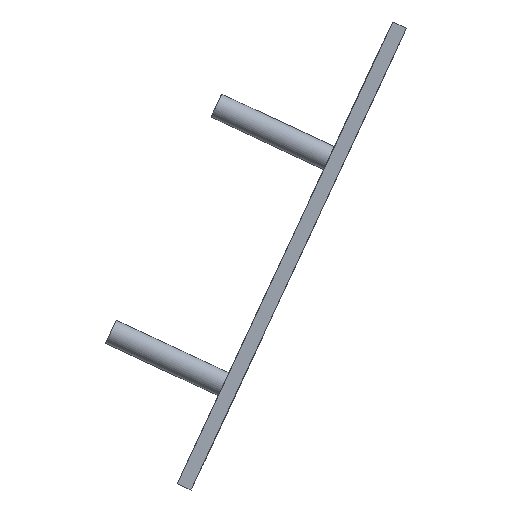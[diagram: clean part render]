
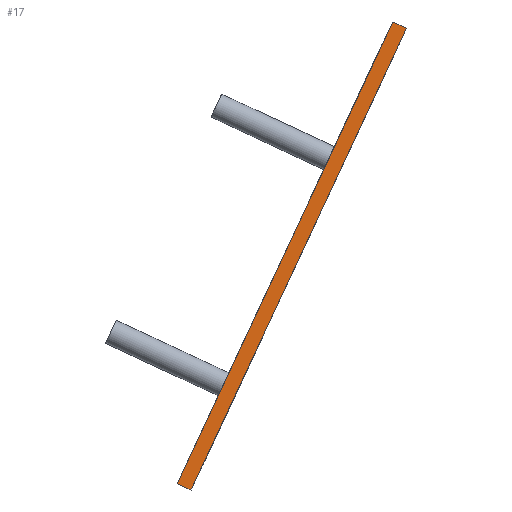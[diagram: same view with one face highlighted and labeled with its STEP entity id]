
A CAD part, left-side view. The second image highlights one B-rep face of the part: STEP entity #17.
In plain terms, the highlighted planar face has unit normal (-1, 0, 0).
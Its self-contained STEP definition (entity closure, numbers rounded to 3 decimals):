
#17 = ADVANCED_FACE('',(#18),#32,.F.);
#18 = FACE_BOUND('',#19,.F.);
#19 = EDGE_LOOP('',(#20,#55,#83,#111));
#20 = ORIENTED_EDGE('',*,*,#21,.F.);
#21 = EDGE_CURVE('',#22,#24,#26,.T.);
#22 = VERTEX_POINT('',#23);
#23 = CARTESIAN_POINT('',(0.,-41.69,8.));
#24 = VERTEX_POINT('',#25);
#25 = CARTESIAN_POINT('',(0.,-44.409,6.732));
#26 = SURFACE_CURVE('',#27,(#31,#43),.PCURVE_S1.);
#27 = LINE('',#28,#29);
#28 = CARTESIAN_POINT('',(0.,-41.69,8.));
#29 = VECTOR('',#30,1.);
#30 = DIRECTION('',(0.,-0.906,-0.423));
#31 = PCURVE('',#32,#37);
#32 = PLANE('',#33);
#33 = AXIS2_PLACEMENT_3D('',#34,#35,#36);
#34 = CARTESIAN_POINT('',(0.,-41.69,8.));
#35 = DIRECTION('',(1.,0.,0.));
#36 = DIRECTION('',(0.,-0.906,-0.423));
#37 = DEFINITIONAL_REPRESENTATION('',(#38),#42);
#38 = LINE('',#39,#40);
#39 = CARTESIAN_POINT('',(0.,0.));
#40 = VECTOR('',#41,1.);
#41 = DIRECTION('',(1.,0.));
#42 = ( GEOMETRIC_REPRESENTATION_CONTEXT(2) 
PARAMETRIC_REPRESENTATION_CONTEXT() REPRESENTATION_CONTEXT('2D SPACE',''
  ) );
#43 = PCURVE('',#44,#49);
#44 = PLANE('',#45);
#45 = AXIS2_PLACEMENT_3D('',#46,#47,#48);
#46 = CARTESIAN_POINT('',(0.,-41.69,8.));
#47 = DIRECTION('',(0.,-0.423,0.906));
#48 = DIRECTION('',(0.,-0.906,-0.423));
#49 = DEFINITIONAL_REPRESENTATION('',(#50),#54);
#50 = LINE('',#51,#52);
#51 = CARTESIAN_POINT('',(0.,0.));
#52 = VECTOR('',#53,1.);
#53 = DIRECTION('',(1.,0.));
#54 = ( GEOMETRIC_REPRESENTATION_CONTEXT(2) 
PARAMETRIC_REPRESENTATION_CONTEXT() REPRESENTATION_CONTEXT('2D SPACE',''
  ) );
#55 = ORIENTED_EDGE('',*,*,#56,.T.);
#56 = EDGE_CURVE('',#22,#57,#59,.T.);
#57 = VERTEX_POINT('',#58);
#58 = CARTESIAN_POINT('',(0.,-83.952,98.631));
#59 = SURFACE_CURVE('',#60,(#64,#71),.PCURVE_S1.);
#60 = LINE('',#61,#62);
#61 = CARTESIAN_POINT('',(0.,-41.69,8.));
#62 = VECTOR('',#63,1.);
#63 = DIRECTION('',(0.,-0.423,0.906));
#64 = PCURVE('',#32,#65);
#65 = DEFINITIONAL_REPRESENTATION('',(#66),#70);
#66 = LINE('',#67,#68);
#67 = CARTESIAN_POINT('',(0.,0.));
#68 = VECTOR('',#69,1.);
#69 = DIRECTION('',(0.,-1.));
#70 = ( GEOMETRIC_REPRESENTATION_CONTEXT(2) 
PARAMETRIC_REPRESENTATION_CONTEXT() REPRESENTATION_CONTEXT('2D SPACE',''
  ) );
#71 = PCURVE('',#72,#77);
#72 = PLANE('',#73);
#73 = AXIS2_PLACEMENT_3D('',#74,#75,#76);
#74 = CARTESIAN_POINT('',(0.,-41.69,8.));
#75 = DIRECTION('',(0.,-0.906,-0.423));
#76 = DIRECTION('',(1.,0.,0.));
#77 = DEFINITIONAL_REPRESENTATION('',(#78),#82);
#78 = LINE('',#79,#80);
#79 = CARTESIAN_POINT('',(0.,0.));
#80 = VECTOR('',#81,1.);
#81 = DIRECTION('',(0.,1.));
#82 = ( GEOMETRIC_REPRESENTATION_CONTEXT(2) 
PARAMETRIC_REPRESENTATION_CONTEXT() REPRESENTATION_CONTEXT('2D SPACE',''
  ) );
#83 = ORIENTED_EDGE('',*,*,#84,.T.);
#84 = EDGE_CURVE('',#57,#85,#87,.T.);
#85 = VERTEX_POINT('',#86);
#86 = CARTESIAN_POINT('',(0.,-86.671,97.363));
#87 = SURFACE_CURVE('',#88,(#92,#99),.PCURVE_S1.);
#88 = LINE('',#89,#90);
#89 = CARTESIAN_POINT('',(0.,-83.952,98.631));
#90 = VECTOR('',#91,1.);
#91 = DIRECTION('',(0.,-0.906,-0.423));
#92 = PCURVE('',#32,#93);
#93 = DEFINITIONAL_REPRESENTATION('',(#94),#98);
#94 = LINE('',#95,#96);
#95 = CARTESIAN_POINT('',(0.,-100.));
#96 = VECTOR('',#97,1.);
#97 = DIRECTION('',(1.,0.));
#98 = ( GEOMETRIC_REPRESENTATION_CONTEXT(2) 
PARAMETRIC_REPRESENTATION_CONTEXT() REPRESENTATION_CONTEXT('2D SPACE',''
  ) );
#99 = PCURVE('',#100,#105);
#100 = PLANE('',#101);
#101 = AXIS2_PLACEMENT_3D('',#102,#103,#104);
#102 = CARTESIAN_POINT('',(0.,-83.952,98.631));
#103 = DIRECTION('',(0.,-0.423,0.906));
#104 = DIRECTION('',(0.,-0.906,-0.423));
#105 = DEFINITIONAL_REPRESENTATION('',(#106),#110);
#106 = LINE('',#107,#108);
#107 = CARTESIAN_POINT('',(0.,0.));
#108 = VECTOR('',#109,1.);
#109 = DIRECTION('',(1.,0.));
#110 = ( GEOMETRIC_REPRESENTATION_CONTEXT(2) 
PARAMETRIC_REPRESENTATION_CONTEXT() REPRESENTATION_CONTEXT('2D SPACE',''
  ) );
#111 = ORIENTED_EDGE('',*,*,#112,.F.);
#112 = EDGE_CURVE('',#24,#85,#113,.T.);
#113 = SURFACE_CURVE('',#114,(#118,#125),.PCURVE_S1.);
#114 = LINE('',#115,#116);
#115 = CARTESIAN_POINT('',(0.,-44.409,6.732));
#116 = VECTOR('',#117,1.);
#117 = DIRECTION('',(0.,-0.423,0.906));
#118 = PCURVE('',#32,#119);
#119 = DEFINITIONAL_REPRESENTATION('',(#120),#124);
#120 = LINE('',#121,#122);
#121 = CARTESIAN_POINT('',(3.,0.));
#122 = VECTOR('',#123,1.);
#123 = DIRECTION('',(0.,-1.));
#124 = ( GEOMETRIC_REPRESENTATION_CONTEXT(2) 
PARAMETRIC_REPRESENTATION_CONTEXT() REPRESENTATION_CONTEXT('2D SPACE',''
  ) );
#125 = PCURVE('',#126,#131);
#126 = PLANE('',#127);
#127 = AXIS2_PLACEMENT_3D('',#128,#129,#130);
#128 = CARTESIAN_POINT('',(0.,-44.409,6.732));
#129 = DIRECTION('',(0.,-0.906,-0.423));
#130 = DIRECTION('',(1.,0.,0.));
#131 = DEFINITIONAL_REPRESENTATION('',(#132),#136);
#132 = LINE('',#133,#134);
#133 = CARTESIAN_POINT('',(0.,0.));
#134 = VECTOR('',#135,1.);
#135 = DIRECTION('',(0.,1.));
#136 = ( GEOMETRIC_REPRESENTATION_CONTEXT(2) 
PARAMETRIC_REPRESENTATION_CONTEXT() REPRESENTATION_CONTEXT('2D SPACE',''
  ) );
